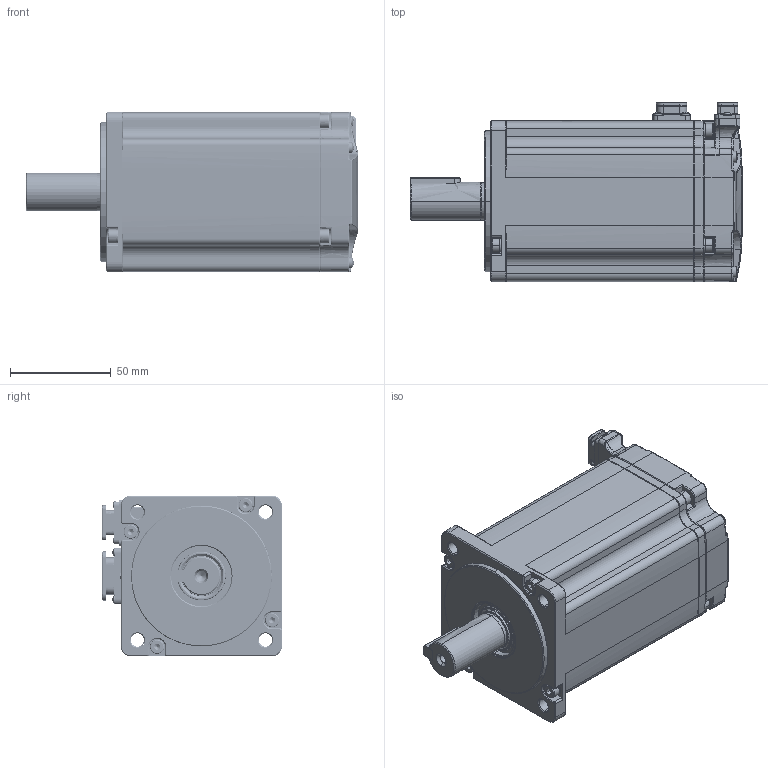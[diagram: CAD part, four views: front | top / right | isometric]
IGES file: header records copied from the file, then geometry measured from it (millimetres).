
Start section: SolidWorks IGES file using analytic representation for surfaces
Global section: file name: Z:\Products\Servo\08.2024\UNITRONICS\B5\UMM-0010CA-B5.IGS; native system: SolidWorks 2022; preprocessor: SolidWorks 2022; author: OfirZ; date: 240820.130833; units: millimetre
Bounding box: 165 x 89.3 x 80 mm (x, y, z)
Surface area: 126390.2 mm2 (no closed solid volume)
Topology: 0 solids, 0 shells, 2942 faces, 26877 edges, 26845 vertices
Faces by surface type: bspline 1830, revolution 1112
